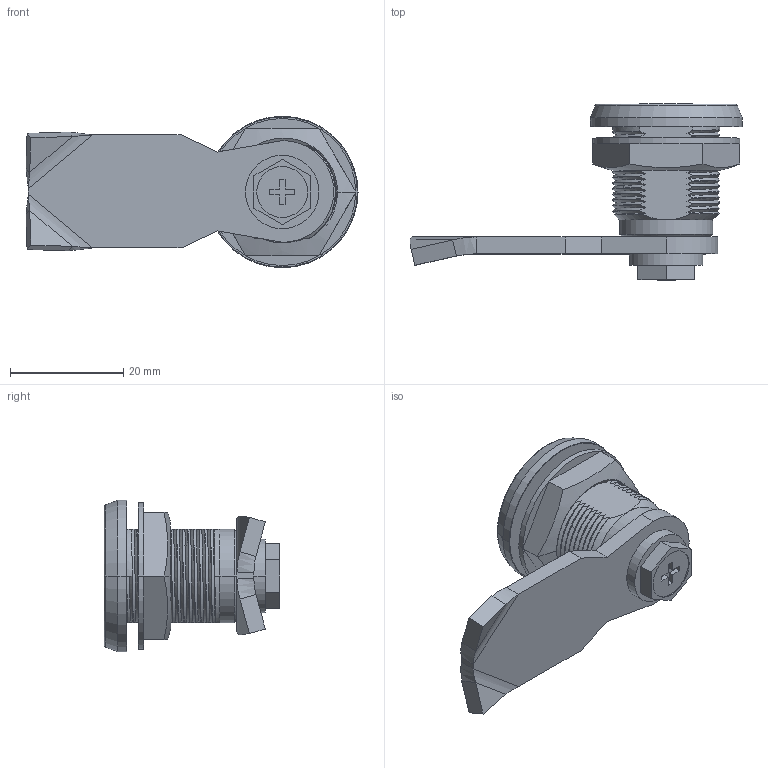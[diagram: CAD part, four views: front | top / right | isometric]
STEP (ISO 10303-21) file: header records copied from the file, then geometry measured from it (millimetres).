
FILE_DESCRIPTION((''),'2;1');
FILE_NAME('ASM0001_ASM','2016-07-06T',('master'),(''),'PRO/ENGINEER BY PARAMETRIC TECHNOLOGY CORPORATION, 2009060','PRO/ENGINEER BY PARAMETRIC TECHNOLOGY CORPORATION, 2009060','');
FILE_SCHEMA(('CONFIG_CONTROL_DESIGN'));
Length unit declared in the file: millimetre
Products named in the file (9): ZHUANZHOU; JZ; DIANP; LUOMU; GANGSHUAN; LD; TANHUANG; O-RING-10X2-4; ASM0001_ASM
Assembly tree (8 placements, depth 2):
  ASM0001_ASM
    ZHUANZHOU
    JZ
    DIANP
    LUOMU
    GANGSHUAN
    LD
    TANHUANG
    O-RING-10X2-4
Bounding box: 58.72 x 31.1 x 26.8 mm (x, y, z)
Volume: 13096.4 mm3; surface area: 9819.7 mm2
Topology: 8 solids, 8 shells, 319 faces, 818 edges, 514 vertices
Faces by surface type: plane 95, cylinder 86, bspline 82, torus 25, sphere 18, cone 13
Entity records: 30709 total; most frequent: CARTESIAN_POINT 23512, ORIENTED_EDGE 1608, DIRECTION 1211, EDGE_CURVE 804, VERTEX_POINT 514, AXIS2_PLACEMENT_3D 450, EDGE_LOOP 340, FACE_OUTER_BOUND 319
